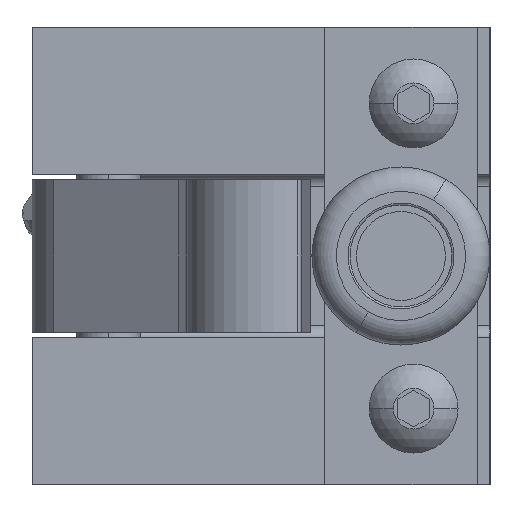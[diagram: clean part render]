
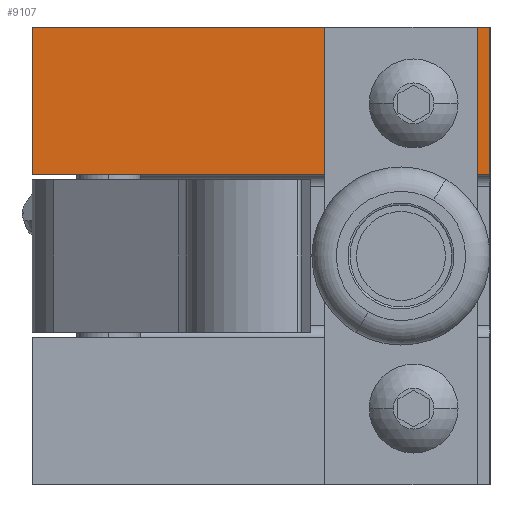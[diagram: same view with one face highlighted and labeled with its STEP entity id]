
A CAD part, left-side view. The second image highlights one B-rep face of the part: STEP entity #9107.
In plain terms, the highlighted planar face has unit normal (-1, 0, 0).
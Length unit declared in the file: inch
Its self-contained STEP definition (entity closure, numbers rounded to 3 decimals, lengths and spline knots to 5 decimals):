
#1339 = DIRECTION ( 'NONE',  ( 0., -1., 0. ) ) ;
#1340 = VECTOR ( 'NONE', #1339, 39.37008 ) ;
#1341 = CARTESIAN_POINT ( 'NONE',  ( -1.70175, -1.21716, 1.22811 ) ) ;
#1342 = LINE ( 'NONE', #1341, #1340 ) ;
#2592 = DIRECTION ( 'NONE',  ( 0., 0., 1. ) ) ;
#2593 = VECTOR ( 'NONE', #2592, 39.37008 ) ;
#2594 = CARTESIAN_POINT ( 'NONE',  ( -1.70175, 1.03284, -1.02189 ) ) ;
#2595 = LINE ( 'NONE', #2594, #2593 ) ;
#2598 = CARTESIAN_POINT ( 'NONE',  ( -1.70175, 1.03284, 0.50311 ) ) ;
#2660 = FACE_OUTER_BOUND ( 'NONE', #9124, .T. ) ;
#2661 = FACE_BOUND ( 'NONE', #9067, .T. ) ;
#2690 = DIRECTION ( 'NONE',  ( -1., 0., 0. ) ) ;
#2691 = CARTESIAN_POINT ( 'NONE',  ( -1.70175, -0.84216, 0.85311 ) ) ;
#2692 = AXIS2_PLACEMENT_3D ( 'NONE', #2691, #2690, #2711 ) ;
#2693 = CIRCLE ( 'NONE', #2692, 0.125 ) ;
#2695 = CARTESIAN_POINT ( 'NONE',  ( -1.70175, -0.84216, 0.72811 ) ) ;
#2711 = DIRECTION ( 'NONE',  ( 0., 0., 1. ) ) ;
#2736 = CARTESIAN_POINT ( 'NONE',  ( -1.70175, -0.84216, 0.97811 ) ) ;
#2737 = DIRECTION ( 'NONE',  ( 0., 0., 1. ) ) ;
#2738 = DIRECTION ( 'NONE',  ( -1., 0., 0. ) ) ;
#2739 = CARTESIAN_POINT ( 'NONE',  ( -1.70175, -0.84216, 0.85311 ) ) ;
#2740 = AXIS2_PLACEMENT_3D ( 'NONE', #2739, #2738, #2737 ) ;
#2741 = DIRECTION ( 'NONE',  ( 0., 0., 1. ) ) ;
#2814 = DIRECTION ( 'NONE',  ( -1., 0., 0. ) ) ;
#2815 = CARTESIAN_POINT ( 'NONE',  ( -1.70175, -1.21716, -1.02189 ) ) ;
#2816 = AXIS2_PLACEMENT_3D ( 'NONE', #2815, #2814, #2741 ) ;
#2817 = CIRCLE ( 'NONE', #2740, 0.125 ) ;
#2818 = PLANE ( 'NONE',  #2816 ) ;
#2821 = CARTESIAN_POINT ( 'NONE',  ( -1.70175, 1.03284, 1.22811 ) ) ;
#3260 = CARTESIAN_POINT ( 'NONE',  ( -1.70175, -1.21716, 1.22811 ) ) ;
#3261 = DIRECTION ( 'NONE',  ( 0., 0., 1. ) ) ;
#3262 = VECTOR ( 'NONE', #3261, 39.37008 ) ;
#3263 = CARTESIAN_POINT ( 'NONE',  ( -1.70175, -1.21716, -1.02189 ) ) ;
#3264 = LINE ( 'NONE', #3263, #3262 ) ;
#3265 = CARTESIAN_POINT ( 'NONE',  ( -1.70175, -1.21716, 0.50311 ) ) ;
#3266 = DIRECTION ( 'NONE',  ( 0., 1., 0. ) ) ;
#3267 = VECTOR ( 'NONE', #3266, 39.37008 ) ;
#3268 = CARTESIAN_POINT ( 'NONE',  ( -1.70175, -1.21716, 0.50311 ) ) ;
#3269 = LINE ( 'NONE', #3268, #3267 ) ;
#8424 = EDGE_CURVE ( 'NONE', #9054, #9395, #1342, .T. ) ;
#9012 = ORIENTED_EDGE ( 'NONE', *, *, #8424, .F. ) ;
#9015 = ORIENTED_EDGE ( 'NONE', *, *, #9384, .F. ) ;
#9044 = VERTEX_POINT ( 'NONE', #2598 ) ;
#9051 = EDGE_CURVE ( 'NONE', #9044, #9054, #2595, .T. ) ;
#9054 = VERTEX_POINT ( 'NONE', #2821 ) ;
#9067 = EDGE_LOOP ( 'NONE', ( #9109, #9116 ) ) ;
#9107 = ADVANCED_FACE ( 'NONE', ( #2661, #2660 ), #2818, .T. ) ;
#9109 = ORIENTED_EDGE ( 'NONE', *, *, #9111, .F. ) ;
#9111 = EDGE_CURVE ( 'NONE', #9113, #9114, #2817, .T. ) ;
#9113 = VERTEX_POINT ( 'NONE', #2736 ) ;
#9114 = VERTEX_POINT ( 'NONE', #2695 ) ;
#9116 = ORIENTED_EDGE ( 'NONE', *, *, #9119, .F. ) ;
#9119 = EDGE_CURVE ( 'NONE', #9114, #9113, #2693, .T. ) ;
#9124 = EDGE_LOOP ( 'NONE', ( #9015, #9203, #9012, #9616 ) ) ;
#9203 = ORIENTED_EDGE ( 'NONE', *, *, #9392, .T. ) ;
#9384 = EDGE_CURVE ( 'NONE', #9391, #9044, #3269, .T. ) ;
#9391 = VERTEX_POINT ( 'NONE', #3265 ) ;
#9392 = EDGE_CURVE ( 'NONE', #9391, #9395, #3264, .T. ) ;
#9395 = VERTEX_POINT ( 'NONE', #3260 ) ;
#9616 = ORIENTED_EDGE ( 'NONE', *, *, #9051, .F. ) ;
